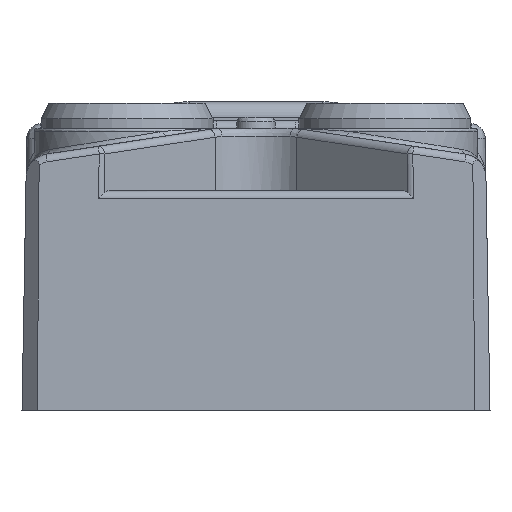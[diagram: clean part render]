
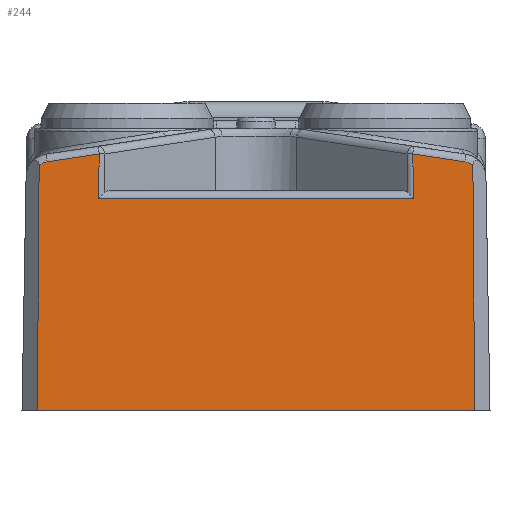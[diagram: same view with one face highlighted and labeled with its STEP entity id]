
A CAD part, front view. The second image highlights one B-rep face of the part: STEP entity #244.
In plain terms, the highlighted planar face has unit normal (0, -1, 0.018).
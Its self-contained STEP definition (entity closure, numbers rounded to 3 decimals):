
#244 = ADVANCED_FACE ( 'NONE', ( #74608 ), #112098, .T. ) ;
#1558 = CARTESIAN_POINT ( 'NONE',  ( 13.874, -54.946, 14.811 ) ) ;
#1955 = CARTESIAN_POINT ( 'NONE',  ( -13.874, -54.946, 14.811 ) ) ;
#3754 = DIRECTION ( 'NONE',  ( 0.017, 0.017, 1. ) ) ;
#4055 = LINE ( 'NONE', #78752, #69817 ) ;
#4325 = DIRECTION ( 'NONE',  ( -0.007, -0.017, -1. ) ) ;
#5581 = CARTESIAN_POINT ( 'NONE',  ( 13.987, -55.219, -0.85 ) ) ;
#6703 = VERTEX_POINT ( 'NONE', #60941 ) ;
#8389 = VECTOR ( 'NONE', #3754, 1000. ) ;
#10293 = CARTESIAN_POINT ( 'NONE',  ( -13.359, -54.942, 15.052 ) ) ;
#10376 = CARTESIAN_POINT ( 'NONE',  ( 13.359, -54.942, 15.052 ) ) ;
#11003 = CARTESIAN_POINT ( 'NONE',  ( 13.874, -54.946, 14.811 ) ) ;
#11678 = CARTESIAN_POINT ( 'NONE',  ( -10.03, -54.933, 15.558 ) ) ;
#12622 = CARTESIAN_POINT ( 'NONE',  ( 11.695, -54.937, 15.305 ) ) ;
#13257 = VERTEX_POINT ( 'NONE', #76290 ) ;
#15764 = ORIENTED_EDGE ( 'NONE', *, *, #26666, .F. ) ;
#17637 = CARTESIAN_POINT ( 'NONE',  ( 13.359, -54.942, 15.052 ) ) ;
#18063 = LINE ( 'NONE', #80615, #100314 ) ;
#19291 = ORIENTED_EDGE ( 'NONE', *, *, #32876, .T. ) ;
#19633 = ORIENTED_EDGE ( 'NONE', *, *, #62086, .T. ) ;
#19732 = CARTESIAN_POINT ( 'NONE',  ( 0., -54.983, 12.709 ) ) ;
#20148 = ORIENTED_EDGE ( 'NONE', *, *, #106716, .T. ) ;
#20469 = ORIENTED_EDGE ( 'NONE', *, *, #54368, .T. ) ;
#21522 = CARTESIAN_POINT ( 'NONE',  ( -13.874, -54.946, 14.811 ) ) ;
#25554 = LINE ( 'NONE', #50916, #58397 ) ;
#26654 = DIRECTION ( 'NONE',  ( 0.017, -0.017, -1. ) ) ;
#26666 = EDGE_CURVE ( 'NONE', #82351, #36926, #88939, .T. ) ;
#27001 = AXIS2_PLACEMENT_3D ( 'NONE', #77242, #111736, #102198 ) ;
#29377 = B_SPLINE_CURVE_WITH_KNOTS ( 'NONE', 3,
 ( #1558, #80438, #71205, #10376 ),
 .UNSPECIFIED., .F., .F.,
 ( 4, 4 ),
 ( 0., 1. ),
 .UNSPECIFIED. ) ;
#30804 = VERTEX_POINT ( 'NONE', #10293 ) ;
#30869 = ORIENTED_EDGE ( 'NONE', *, *, #89960, .T. ) ;
#32876 = EDGE_CURVE ( 'NONE', #59447, #6703, #92139, .T. ) ;
#34036 = EDGE_CURVE ( 'NONE', #6703, #52006, #34360, .T. ) ;
#34360 = LINE ( 'NONE', #56121, #8389 ) ;
#36926 = VERTEX_POINT ( 'NONE', #5581 ) ;
#37074 = ORIENTED_EDGE ( 'NONE', *, *, #73537, .F. ) ;
#40650 = CARTESIAN_POINT ( 'NONE',  ( -13.729, -54.944, 14.94 ) ) ;
#43570 = VECTOR ( 'NONE', #80324, 1000. ) ;
#46987 = EDGE_CURVE ( 'NONE', #13257, #59447, #4055, .T. ) ;
#50916 = CARTESIAN_POINT ( 'NONE',  ( -11.695, -54.937, 15.305 ) ) ;
#52006 = VERTEX_POINT ( 'NONE', #11678 ) ;
#52583 = DIRECTION ( 'NONE',  ( -1., 0., 0. ) ) ;
#54075 = VERTEX_POINT ( 'NONE', #1955 ) ;
#54368 = EDGE_CURVE ( 'NONE', #104512, #13257, #111573, .T. ) ;
#56121 = CARTESIAN_POINT ( 'NONE',  ( -10.08, -54.983, 12.709 ) ) ;
#57115 = CARTESIAN_POINT ( 'NONE',  ( -13.359, -54.942, 15.052 ) ) ;
#58397 = VECTOR ( 'NONE', #68166, 1000. ) ;
#58694 = EDGE_LOOP ( 'NONE', ( #15764, #19633, #20469, #82397, #19291, #70273, #20148, #30869, #66913, #37074 ) ) ;
#59447 = VERTEX_POINT ( 'NONE', #60974 ) ;
#60442 = EDGE_CURVE ( 'NONE', #54075, #74505, #102174, .T. ) ;
#60941 = CARTESIAN_POINT ( 'NONE',  ( -10.08, -54.983, 12.709 ) ) ;
#60974 = CARTESIAN_POINT ( 'NONE',  ( 10.08, -54.983, 12.709 ) ) ;
#62086 = EDGE_CURVE ( 'NONE', #82351, #104512, #29377, .T. ) ;
#66913 = ORIENTED_EDGE ( 'NONE', *, *, #60442, .T. ) ;
#67625 = CARTESIAN_POINT ( 'NONE',  ( -13.987, -55.219, -0.85 ) ) ;
#68166 = DIRECTION ( 'NONE',  ( -0.989, -0.003, -0.15 ) ) ;
#69593 = CARTESIAN_POINT ( 'NONE',  ( 13.874, -54.946, 14.811 ) ) ;
#69817 = VECTOR ( 'NONE', #26654, 1000. ) ;
#70273 = ORIENTED_EDGE ( 'NONE', *, *, #34036, .T. ) ;
#70554 = VECTOR ( 'NONE', #4325, 1000. ) ;
#71205 = CARTESIAN_POINT ( 'NONE',  ( 13.552, -54.942, 15.023 ) ) ;
#73537 = EDGE_CURVE ( 'NONE', #36926, #74505, #18063, .T. ) ;
#74505 = VERTEX_POINT ( 'NONE', #67625 ) ;
#74608 = FACE_OUTER_BOUND ( 'NONE', #58694, .T. ) ;
#76290 = CARTESIAN_POINT ( 'NONE',  ( 10.03, -54.933, 15.558 ) ) ;
#77242 = CARTESIAN_POINT ( 'NONE',  ( 14.155, -54.931, 15.657 ) ) ;
#78752 = CARTESIAN_POINT ( 'NONE',  ( 10.03, -54.933, 15.558 ) ) ;
#80324 = DIRECTION ( 'NONE',  ( 0.007, -0.017, -1. ) ) ;
#80438 = CARTESIAN_POINT ( 'NONE',  ( 13.73, -54.944, 14.938 ) ) ;
#80615 = CARTESIAN_POINT ( 'NONE',  ( 0., -55.219, -0.85 ) ) ;
#82351 = VERTEX_POINT ( 'NONE', #69593 ) ;
#82397 = ORIENTED_EDGE ( 'NONE', *, *, #46987, .T. ) ;
#88724 = DIRECTION ( 'NONE',  ( -1., 0., 0. ) ) ;
#88939 = LINE ( 'NONE', #11003, #43570 ) ;
#89960 = EDGE_CURVE ( 'NONE', #30804, #54075, #109051, .T. ) ;
#91050 = VECTOR ( 'NONE', #100742, 1000. ) ;
#92139 = LINE ( 'NONE', #19732, #112647 ) ;
#100314 = VECTOR ( 'NONE', #88724, 1000. ) ;
#100501 = CARTESIAN_POINT ( 'NONE',  ( -13.55, -54.942, 15.023 ) ) ;
#100742 = DIRECTION ( 'NONE',  ( -0.989, 0.003, 0.15 ) ) ;
#102002 = CARTESIAN_POINT ( 'NONE',  ( -13.874, -54.946, 14.811 ) ) ;
#102174 = LINE ( 'NONE', #21522, #70554 ) ;
#102198 = DIRECTION ( 'NONE',  ( -1., 0., 0. ) ) ;
#104512 = VERTEX_POINT ( 'NONE', #17637 ) ;
#106716 = EDGE_CURVE ( 'NONE', #52006, #30804, #25554, .T. ) ;
#109051 = B_SPLINE_CURVE_WITH_KNOTS ( 'NONE', 3,
 ( #57115, #100501, #40650, #102002 ),
 .UNSPECIFIED., .F., .F.,
 ( 4, 4 ),
 ( 0., 1. ),
 .UNSPECIFIED. ) ;
#111573 = LINE ( 'NONE', #12622, #91050 ) ;
#111736 = DIRECTION ( 'NONE',  ( 0., -1., 0.017 ) ) ;
#112098 = PLANE ( 'NONE',  #27001 ) ;
#112647 = VECTOR ( 'NONE', #52583, 1000. ) ;
